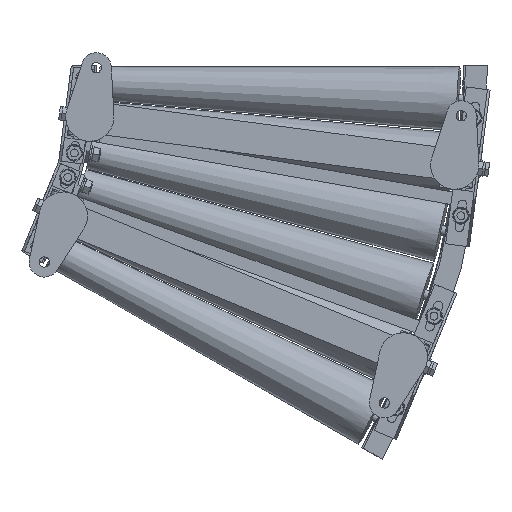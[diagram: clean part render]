
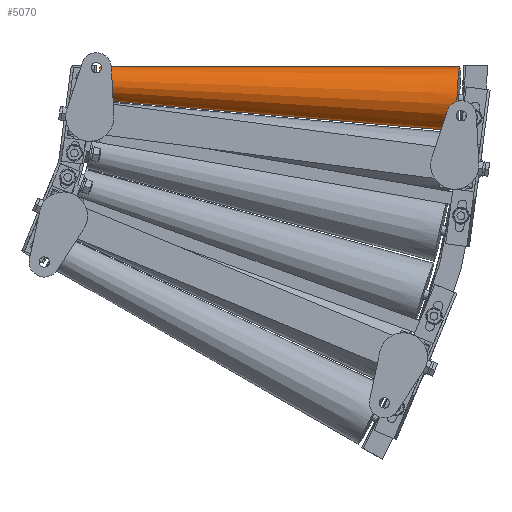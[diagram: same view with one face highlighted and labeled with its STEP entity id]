
A CAD part, front view. The second image highlights one B-rep face of the part: STEP entity #5070.
In plain terms, the highlighted conical face has half-angle 2.425 degrees and reference radius 40.6 mm.
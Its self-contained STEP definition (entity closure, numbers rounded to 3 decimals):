
#746 = CARTESIAN_POINT ( 'NONE',  ( 504.975, -21.331, -0.677 ) ) ;
#1573 = VERTEX_POINT ( 'NONE', #7884 ) ;
#2321 = CARTESIAN_POINT ( 'NONE',  ( 959.568, -40.564, -1.257 ) ) ;
#2583 = DIRECTION ( 'NONE',  ( 0.044, 0., 0.999 ) ) ;
#4329 = ORIENTED_EDGE ( 'NONE', *, *, #6450, .F. ) ;
#4623 = ORIENTED_EDGE ( 'NONE', *, *, #46948, .T. ) ;
#5070 = ADVANCED_FACE ( 'NONE', ( #33153 ), #59109, .T. ) ;
#5269 = EDGE_LOOP ( 'NONE', ( #4329, #19787, #4623, #7574 ) ) ;
#6450 = EDGE_CURVE ( 'NONE', #85702, #22206, #10684, .T. ) ;
#6689 = VECTOR ( 'NONE', #17002, 1000. ) ;
#6963 = EDGE_CURVE ( 'NONE', #18309, #22206, #55903, .T. ) ;
#7574 = ORIENTED_EDGE ( 'NONE', *, *, #6963, .T. ) ;
#7884 = CARTESIAN_POINT ( 'NONE',  ( 503.113, -21.331, -43.337 ) ) ;
#9133 = CARTESIAN_POINT ( 'NONE',  ( 957.797, -40.564, -41.818 ) ) ;
#10684 = LINE ( 'NONE', #51723, #26955 ) ;
#17002 = DIRECTION ( 'NONE',  ( 0.995, -0.042, -0.086 ) ) ;
#18309 = VERTEX_POINT ( 'NONE', #31215 ) ;
#18788 = AXIS2_PLACEMENT_3D ( 'NONE', #9133, #63568, #57483 ) ;
#19787 = ORIENTED_EDGE ( 'NONE', *, *, #24625, .F. ) ;
#22206 = VERTEX_POINT ( 'NONE', #2321 ) ;
#22911 = LINE ( 'NONE', #51175, #6689 ) ;
#24625 = EDGE_CURVE ( 'NONE', #1573, #85702, #34489, .T. ) ;
#26955 = VECTOR ( 'NONE', #44432, 1000. ) ;
#31215 = CARTESIAN_POINT ( 'NONE',  ( 956.026, -40.564, -82.38 ) ) ;
#33153 = FACE_OUTER_BOUND ( 'NONE', #5269, .T. ) ;
#34489 = CIRCLE ( 'NONE', #40647, 21.35 ) ;
#34622 = DIRECTION ( 'NONE',  ( 0.044, 0., 0.999 ) ) ;
#37338 = CARTESIAN_POINT ( 'NONE',  ( 957.797, -40.564, -41.818 ) ) ;
#40647 = AXIS2_PLACEMENT_3D ( 'NONE', #82350, #48274, #34622 ) ;
#44432 = DIRECTION ( 'NONE',  ( 0.999, -0.042, -0.001 ) ) ;
#46948 = EDGE_CURVE ( 'NONE', #1573, #18309, #22911, .T. ) ;
#48274 = DIRECTION ( 'NONE',  ( -0.998, 0.042, 0.044 ) ) ;
#49108 = AXIS2_PLACEMENT_3D ( 'NONE', #37338, #65176, #2583 ) ;
#51175 = CARTESIAN_POINT ( 'NONE',  ( 956.026, -40.564, -82.38 ) ) ;
#51723 = CARTESIAN_POINT ( 'NONE',  ( 959.568, -40.564, -1.257 ) ) ;
#55903 = CIRCLE ( 'NONE', #49108, 40.6 ) ;
#57483 = DIRECTION ( 'NONE',  ( -0.044, 0., -0.999 ) ) ;
#59109 = CONICAL_SURFACE ( 'NONE', #18788, 40.6, 0.042 ) ;
#63568 = DIRECTION ( 'NONE',  ( 0.998, -0.042, -0.044 ) ) ;
#65176 = DIRECTION ( 'NONE',  ( -0.998, 0.042, 0.044 ) ) ;
#82350 = CARTESIAN_POINT ( 'NONE',  ( 504.044, -21.331, -22.007 ) ) ;
#85702 = VERTEX_POINT ( 'NONE', #746 ) ;
